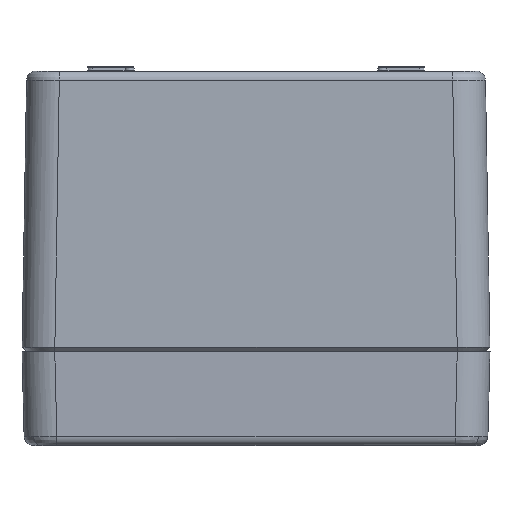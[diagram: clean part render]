
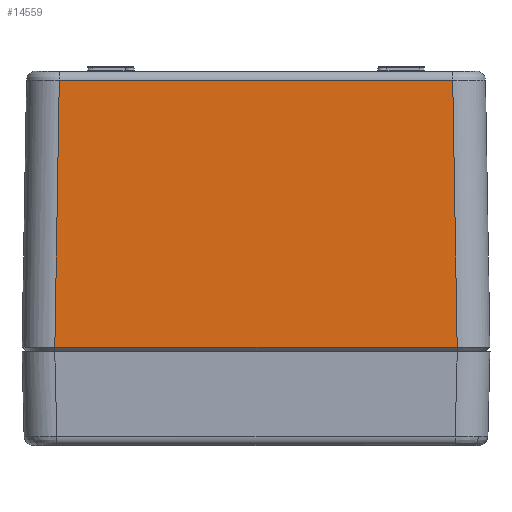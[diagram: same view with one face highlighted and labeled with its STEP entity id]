
A CAD part, left-side view. The second image highlights one B-rep face of the part: STEP entity #14559.
In plain terms, the highlighted planar face has unit normal (-1, 0, 0.017) as drawn and (-1, 0, -0.017) by its records, which use the part's own axes.
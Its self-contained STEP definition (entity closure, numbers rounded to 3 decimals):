
#274=PLANE('',#15771);
#1317=FACE_OUTER_BOUND('',#2251,.T.);
#2251=EDGE_LOOP('',(#10607,#10608,#10609,#10610));
#3345=LINE('',#23386,#4578);
#3357=LINE('',#23751,#4590);
#3358=LINE('',#23896,#4591);
#3359=LINE('',#23897,#4592);
#4578=VECTOR('',#17917,1000.);
#4590=VECTOR('',#17941,1000.);
#4591=VECTOR('',#17944,1000.);
#4592=VECTOR('',#17945,1000.);
#6603=VERTEX_POINT('',#23290);
#6604=VERTEX_POINT('',#23385);
#6615=VERTEX_POINT('',#23749);
#6616=VERTEX_POINT('',#23750);
#8117=EDGE_CURVE('',#6604,#6603,#3345,.T.);
#8134=EDGE_CURVE('',#6615,#6616,#3357,.T.);
#8137=EDGE_CURVE('',#6603,#6616,#3358,.T.);
#8138=EDGE_CURVE('',#6615,#6604,#3359,.T.);
#10607=ORIENTED_EDGE('',*,*,#8117,.T.);
#10608=ORIENTED_EDGE('',*,*,#8137,.T.);
#10609=ORIENTED_EDGE('',*,*,#8134,.F.);
#10610=ORIENTED_EDGE('',*,*,#8138,.T.);
#14559=ADVANCED_FACE('',(#1317),#274,.T.);
#15771=AXIS2_PLACEMENT_3D('',#23895,#17942,#17943);
#17917=DIRECTION('',(-0.017,-0.017,1.));
#17941=DIRECTION('',(-0.017,0.017,1.));
#17942=DIRECTION('center_axis',(-1.,0.,
-0.017));
#17943=DIRECTION('ref_axis',(-0.017,0.,1.));
#17944=DIRECTION('',(0.,1.,0.));
#17945=DIRECTION('',(0.,-1.,0.));
#23290=CARTESIAN_POINT('',(-99.983,-42.985,-0.983));
#23385=CARTESIAN_POINT('',(-99.033,-42.034,-58.033));
#23386=CARTESIAN_POINT('',(-99.,-42.001,-60.));
#23749=CARTESIAN_POINT('',(-99.033,42.034,-58.033));
#23750=CARTESIAN_POINT('',(-99.984,42.985,-0.984));
#23751=CARTESIAN_POINT('',(-99.,42.001,-60.));
#23895=CARTESIAN_POINT('Origin',(-100.,50.,0.));
#23896=CARTESIAN_POINT('',(-99.984,50.,-0.984));
#23897=CARTESIAN_POINT('',(-99.033,-42.001,-58.033));
